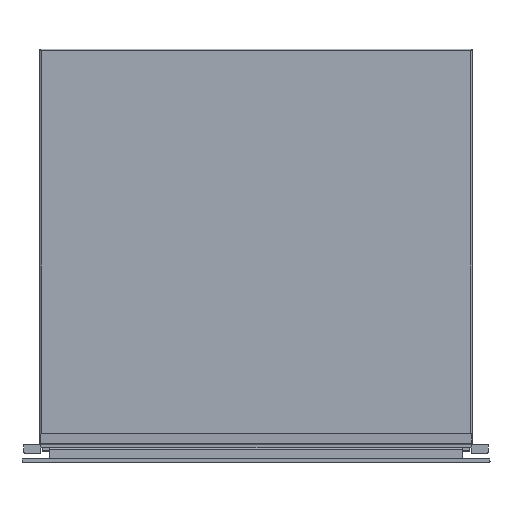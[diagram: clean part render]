
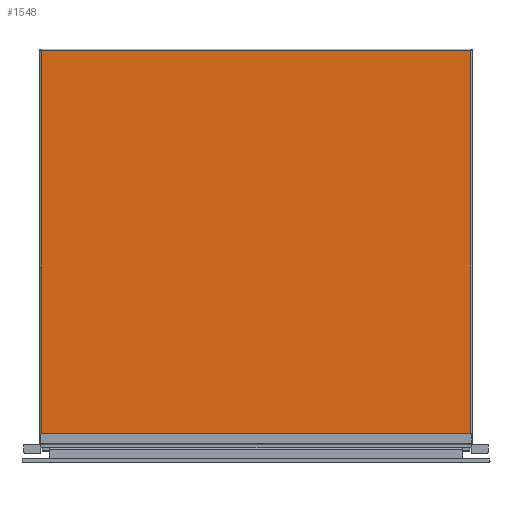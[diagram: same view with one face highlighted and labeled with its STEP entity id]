
A CAD part, front view. The second image highlights one B-rep face of the part: STEP entity #1548.
In plain terms, the highlighted planar face has unit normal (0, -1, 0).
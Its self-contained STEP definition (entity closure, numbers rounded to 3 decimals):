
#68 = VECTOR ( 'NONE', #628, 1000. ) ;
#183 = LINE ( 'NONE', #1776, #2661 ) ;
#256 = CARTESIAN_POINT ( 'NONE',  ( -273.95, 0., -489.15 ) ) ;
#357 = PLANE ( 'NONE',  #1243 ) ;
#502 = ORIENTED_EDGE ( 'NONE', *, *, #2817, .T. ) ;
#592 = DIRECTION ( 'NONE',  ( 0., 0., 1. ) ) ;
#628 = DIRECTION ( 'NONE',  ( -1., 0., 0. ) ) ;
#638 = DIRECTION ( 'NONE',  ( -1., 0., 0. ) ) ;
#664 = CARTESIAN_POINT ( 'NONE',  ( -273.95, 0., -0.8 ) ) ;
#679 = VERTEX_POINT ( 'NONE', #664 ) ;
#680 = ORIENTED_EDGE ( 'NONE', *, *, #1674, .T. ) ;
#798 = FACE_OUTER_BOUND ( 'NONE', #2409, .T. ) ;
#891 = ORIENTED_EDGE ( 'NONE', *, *, #1805, .F. ) ;
#937 = VERTEX_POINT ( 'NONE', #1004 ) ;
#1004 = CARTESIAN_POINT ( 'NONE',  ( 273.95, 0., -489.15 ) ) ;
#1064 = DIRECTION ( 'NONE',  ( 0., 1., 0. ) ) ;
#1243 = AXIS2_PLACEMENT_3D ( 'NONE', #2551, #1064, #2272 ) ;
#1468 = VECTOR ( 'NONE', #638, 1000. ) ;
#1548 = ADVANCED_FACE ( 'NONE', ( #798 ), #357, .F. ) ;
#1558 = CARTESIAN_POINT ( 'NONE',  ( 275.75, 0., -0.8 ) ) ;
#1674 = EDGE_CURVE ( 'NONE', #2449, #679, #1958, .T. ) ;
#1776 = CARTESIAN_POINT ( 'NONE',  ( 273.95, 0., 1. ) ) ;
#1805 = EDGE_CURVE ( 'NONE', #937, #2183, #2424, .T. ) ;
#1958 = LINE ( 'NONE', #1558, #68 ) ;
#2038 = VECTOR ( 'NONE', #2650, 1000. ) ;
#2152 = CARTESIAN_POINT ( 'NONE',  ( -273.95, 0., 0. ) ) ;
#2183 = VERTEX_POINT ( 'NONE', #256 ) ;
#2272 = DIRECTION ( 'NONE',  ( 0., 0., 1. ) ) ;
#2380 = EDGE_CURVE ( 'NONE', #679, #2183, #2579, .T. ) ;
#2409 = EDGE_LOOP ( 'NONE', ( #680, #3017, #891, #502 ) ) ;
#2424 = LINE ( 'NONE', #2871, #1468 ) ;
#2449 = VERTEX_POINT ( 'NONE', #2859 ) ;
#2551 = CARTESIAN_POINT ( 'NONE',  ( 275.75, 0., 0. ) ) ;
#2579 = LINE ( 'NONE', #2152, #2038 ) ;
#2650 = DIRECTION ( 'NONE',  ( 0., 0., -1. ) ) ;
#2661 = VECTOR ( 'NONE', #592, 1000. ) ;
#2817 = EDGE_CURVE ( 'NONE', #937, #2449, #183, .T. ) ;
#2859 = CARTESIAN_POINT ( 'NONE',  ( 273.95, 0., -0.8 ) ) ;
#2871 = CARTESIAN_POINT ( 'NONE',  ( 275.75, 0., -489.15 ) ) ;
#3017 = ORIENTED_EDGE ( 'NONE', *, *, #2380, .T. ) ;
